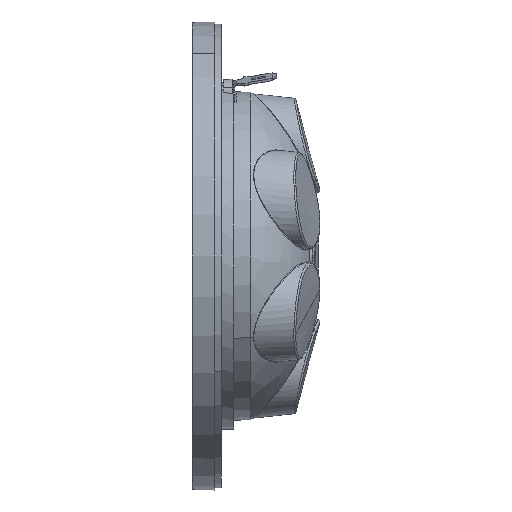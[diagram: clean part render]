
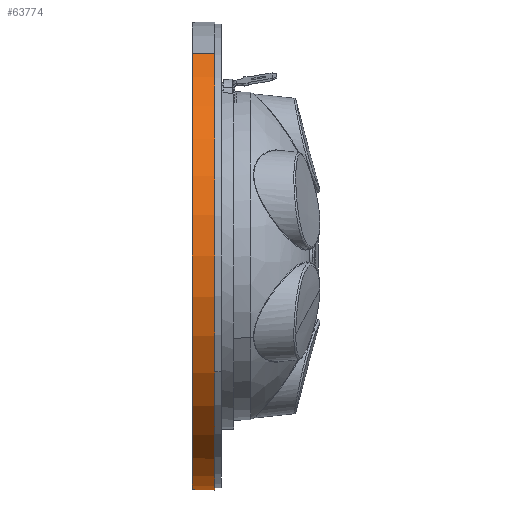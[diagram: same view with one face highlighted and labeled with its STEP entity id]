
A CAD part, left-side view. The second image highlights one B-rep face of the part: STEP entity #63774.
In plain terms, the highlighted conical face has half-angle 1 degrees and reference radius 51.983 mm.
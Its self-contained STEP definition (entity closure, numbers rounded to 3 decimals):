
#2342 = FACE_OUTER_BOUND ( 'NONE', #21050, .T. ) ;
#10757 = EDGE_CURVE ( 'NONE', #40250, #96414, #37468, .T. ) ;
#12728 = CARTESIAN_POINT ( 'NONE',  ( 0., 8.071, 0. ) ) ;
#15988 = CIRCLE ( 'NONE', #88223, 51.897 ) ;
#17061 = AXIS2_PLACEMENT_3D ( 'NONE', #12728, #58548, #67085 ) ;
#21050 = EDGE_LOOP ( 'NONE', ( #54126, #32414, #50185, #105268 ) ) ;
#22882 = EDGE_CURVE ( 'NONE', #51306, #78647, #83134, .T. ) ;
#22914 = DIRECTION ( 'NONE',  ( 0., -1., 0. ) ) ;
#32414 = ORIENTED_EDGE ( 'NONE', *, *, #69303, .T. ) ;
#33542 = CARTESIAN_POINT ( 'NONE',  ( 0., 8.071, 0. ) ) ;
#35039 = DIRECTION ( 'NONE',  ( 0.5, 0., -0.866 ) ) ;
#37468 = LINE ( 'NONE', #76040, #62569 ) ;
#40250 = VERTEX_POINT ( 'NONE', #54156 ) ;
#46406 = CARTESIAN_POINT ( 'NONE',  ( 25.991, 8.071, -45.018 ) ) ;
#50185 = ORIENTED_EDGE ( 'NONE', *, *, #22882, .T. ) ;
#51306 = VERTEX_POINT ( 'NONE', #102627 ) ;
#52752 = CIRCLE ( 'NONE', #72274, 51.983 ) ;
#54126 = ORIENTED_EDGE ( 'NONE', *, *, #10757, .F. ) ;
#54156 = CARTESIAN_POINT ( 'NONE',  ( -25.948, 12.974, 44.944 ) ) ;
#57045 = DIRECTION ( 'NONE',  ( -0.009, -1., 0.015 ) ) ;
#58548 = DIRECTION ( 'NONE',  ( 0., -1., 0. ) ) ;
#62569 = VECTOR ( 'NONE', #57045, 1000. ) ;
#63774 = ADVANCED_FACE ( 'NONE', ( #2342 ), #67740, .T. ) ;
#67085 = DIRECTION ( 'NONE',  ( 0.5, 0., -0.866 ) ) ;
#67625 = EDGE_CURVE ( 'NONE', #96414, #78647, #52752, .T. ) ;
#67740 = CONICAL_SURFACE ( 'NONE', #17061, 51.983, 0.017 ) ;
#69303 = EDGE_CURVE ( 'NONE', #40250, #51306, #15988, .T. ) ;
#72274 = AXIS2_PLACEMENT_3D ( 'NONE', #33542, #97708, #80619 ) ;
#76040 = CARTESIAN_POINT ( 'NONE',  ( -25.991, 8.071, 45.018 ) ) ;
#78647 = VERTEX_POINT ( 'NONE', #83577 ) ;
#80619 = DIRECTION ( 'NONE',  ( 0.5, 0., -0.866 ) ) ;
#83134 = LINE ( 'NONE', #46406, #114747 ) ;
#83577 = CARTESIAN_POINT ( 'NONE',  ( 25.991, 8.071, -45.018 ) ) ;
#88223 = AXIS2_PLACEMENT_3D ( 'NONE', #106585, #22914, #35039 ) ;
#89558 = CARTESIAN_POINT ( 'NONE',  ( -25.991, 8.071, 45.018 ) ) ;
#96414 = VERTEX_POINT ( 'NONE', #89558 ) ;
#97708 = DIRECTION ( 'NONE',  ( 0., -1., 0. ) ) ;
#102627 = CARTESIAN_POINT ( 'NONE',  ( 25.948, 12.974, -44.944 ) ) ;
#105268 = ORIENTED_EDGE ( 'NONE', *, *, #67625, .F. ) ;
#106585 = CARTESIAN_POINT ( 'NONE',  ( 0., 12.974, 0. ) ) ;
#114747 = VECTOR ( 'NONE', #120314, 1000. ) ;
#120314 = DIRECTION ( 'NONE',  ( 0.009, -1., -0.015 ) ) ;
